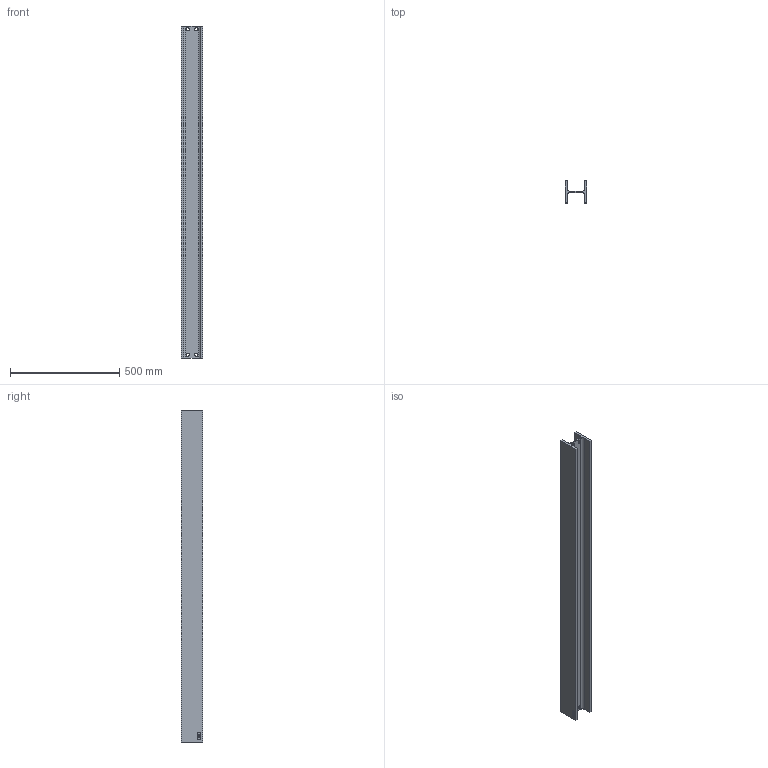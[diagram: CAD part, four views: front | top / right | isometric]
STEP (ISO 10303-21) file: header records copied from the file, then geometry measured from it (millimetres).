
FILE_DESCRIPTION (( 'STEP AP214' ), '1' );
FILE_NAME ('CCJ029-REP.080 - POTEAU PLATEFORME INTERMEDIAIRE.STEP', '2025-10-31T14:13:43', ( '' ), ( '' ), 'SwSTEP 2.0', 'SolidWorks 2021', '' );
FILE_SCHEMA (( 'AUTOMOTIVE_DESIGN' ));
Length unit declared in the file: millimetre
Products named in the file (1): CCJ029-REP.080 - POTEAU PLATEFORME INTERMEDIAIRE
Bounding box: 100 x 100 x 1520 mm (x, y, z)
Volume: 3953157.8 mm3; surface area: 867487.3 mm2
Topology: 1 solids, 1 shells, 68 faces, 177 edges, 118 vertices
Faces by surface type: bspline 35, plane 21, cylinder 12
Entity records: 4489 total; most frequent: CARTESIAN_POINT 2983, ORIENTED_EDGE 354, DIRECTION 199, EDGE_CURVE 177, VERTEX_POINT 118, LINE 83, VECTOR 83, EDGE_LOOP 83
